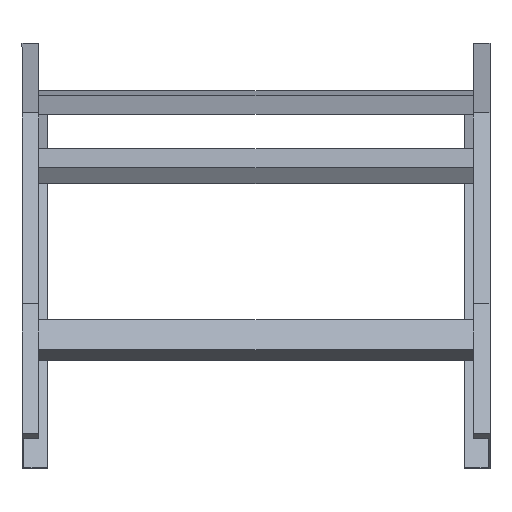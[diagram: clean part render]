
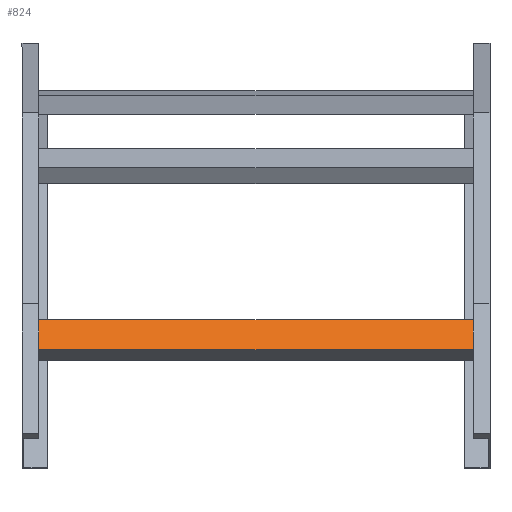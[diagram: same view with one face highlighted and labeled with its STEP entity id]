
A CAD part, top view. The second image highlights one B-rep face of the part: STEP entity #824.
In plain terms, the highlighted planar face has unit normal (0, 0.609, 0.793) as drawn and (0, 1, 0) by its records, which use the part's own axes.
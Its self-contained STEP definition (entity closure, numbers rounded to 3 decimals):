
#74 = LINE ( 'NONE', #488, #1195 ) ;
#92 = DIRECTION ( 'NONE',  ( 0., 0., 1. ) ) ;
#153 = CARTESIAN_POINT ( 'NONE',  ( 248., 20., 20.25 ) ) ;
#289 = CARTESIAN_POINT ( 'NONE',  ( -248., 20., 20.25 ) ) ;
#295 = ORIENTED_EDGE ( 'NONE', *, *, #1168, .T. ) ;
#302 = VECTOR ( 'NONE', #675, 1000. ) ;
#370 = VERTEX_POINT ( 'NONE', #289 ) ;
#411 = CARTESIAN_POINT ( 'NONE',  ( 248., 20., 20.25 ) ) ;
#488 = CARTESIAN_POINT ( 'NONE',  ( -248., 20., 20.25 ) ) ;
#494 = VECTOR ( 'NONE', #1565, 1000. ) ;
#584 = LINE ( 'NONE', #1161, #494 ) ;
#593 = VERTEX_POINT ( 'NONE', #1487 ) ;
#643 = CARTESIAN_POINT ( 'NONE',  ( 248., 20., -20.25 ) ) ;
#667 = PLANE ( 'NONE',  #1027 ) ;
#675 = DIRECTION ( 'NONE',  ( 0., 0., 1. ) ) ;
#683 = FACE_OUTER_BOUND ( 'NONE', #1091, .T. ) ;
#685 = EDGE_CURVE ( 'NONE', #1325, #370, #584, .T. ) ;
#824 = ADVANCED_FACE ( 'NONE', ( #683 ), #667, .F. ) ;
#832 = VECTOR ( 'NONE', #1244, 1000. ) ;
#948 = CARTESIAN_POINT ( 'NONE',  ( 248., 20., -20.25 ) ) ;
#949 = ORIENTED_EDGE ( 'NONE', *, *, #1250, .F. ) ;
#971 = ORIENTED_EDGE ( 'NONE', *, *, #1685, .T. ) ;
#1027 = AXIS2_PLACEMENT_3D ( 'NONE', #153, #1539, #1559 ) ;
#1042 = LINE ( 'NONE', #643, #832 ) ;
#1091 = EDGE_LOOP ( 'NONE', ( #295, #1391, #949, #971 ) ) ;
#1161 = CARTESIAN_POINT ( 'NONE',  ( 248., 20., 20.25 ) ) ;
#1168 = EDGE_CURVE ( 'NONE', #593, #370, #74, .T. ) ;
#1195 = VECTOR ( 'NONE', #92, 1000. ) ;
#1244 = DIRECTION ( 'NONE',  ( -1., 0., 0. ) ) ;
#1250 = EDGE_CURVE ( 'NONE', #1341, #1325, #1569, .T. ) ;
#1259 = CARTESIAN_POINT ( 'NONE',  ( 248., 20., 20.25 ) ) ;
#1325 = VERTEX_POINT ( 'NONE', #1259 ) ;
#1341 = VERTEX_POINT ( 'NONE', #948 ) ;
#1391 = ORIENTED_EDGE ( 'NONE', *, *, #685, .F. ) ;
#1487 = CARTESIAN_POINT ( 'NONE',  ( -248., 20., -20.25 ) ) ;
#1539 = DIRECTION ( 'NONE',  ( 0., -1., 0. ) ) ;
#1559 = DIRECTION ( 'NONE',  ( 0., 0., -1. ) ) ;
#1565 = DIRECTION ( 'NONE',  ( -1., 0., 0. ) ) ;
#1569 = LINE ( 'NONE', #411, #302 ) ;
#1685 = EDGE_CURVE ( 'NONE', #1341, #593, #1042, .T. ) ;
